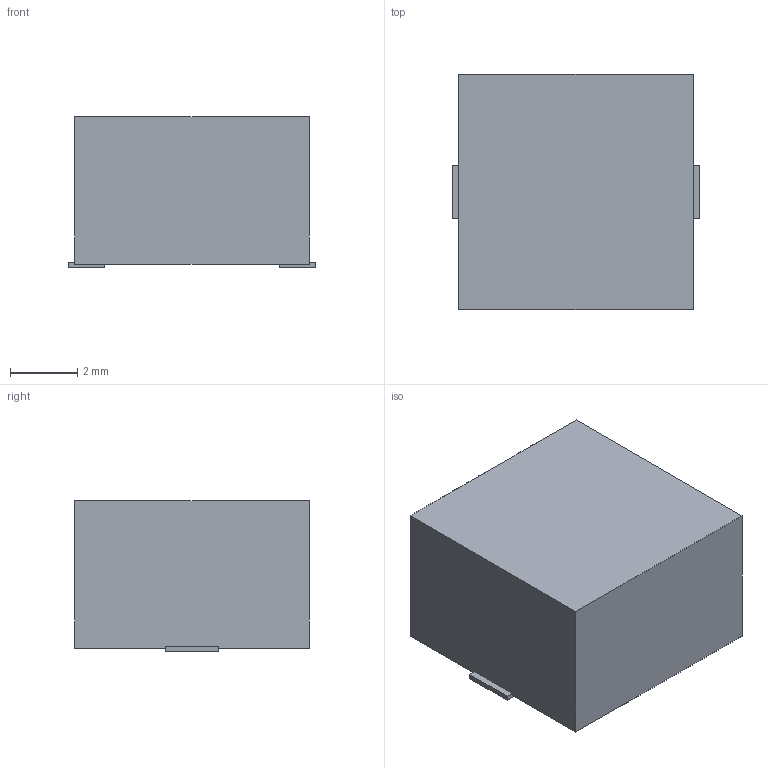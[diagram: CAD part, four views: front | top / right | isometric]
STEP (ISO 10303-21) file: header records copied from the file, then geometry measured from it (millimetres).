
FILE_DESCRIPTION(('Open CASCADE Model'),'2;1');
FILE_NAME('Open CASCADE Shape Model','2026-10-19T06:28:22',('Author'),( 'Open CASCADE'),'Open CASCADE STEP processor 7.8','Open CASCADE 7.8' ,'Unknown');
FILE_SCHEMA(('AUTOMOTIVE_DESIGN { 1 0 10303 214 1 1 1 1 }'));
Length unit declared in the file: millimetre
Products named in the file (4): SLF7045_nominal; Shield_nominal; Contact_1; Contact_2
Assembly tree (3 placements, depth 2):
  SLF7045_nominal
    Shield_nominal
    Contact_1
    Contact_2
Bounding box: 7.38 x 7 x 4.5 mm (x, y, z)
Volume: 216.1 mm3; surface area: 229.6 mm2
Topology: 3 solids, 3 shells, 18 faces, 36 edges, 24 vertices
Faces by surface type: plane 18
Entity records: 1014 total; most frequent: CARTESIAN_POINT 154, DIRECTION 152, LINE 108, VECTOR 108, ORIENTED_EDGE 72, PCURVE 72, DEFINITIONAL_REPRESENTATION 72, EDGE_CURVE 36
